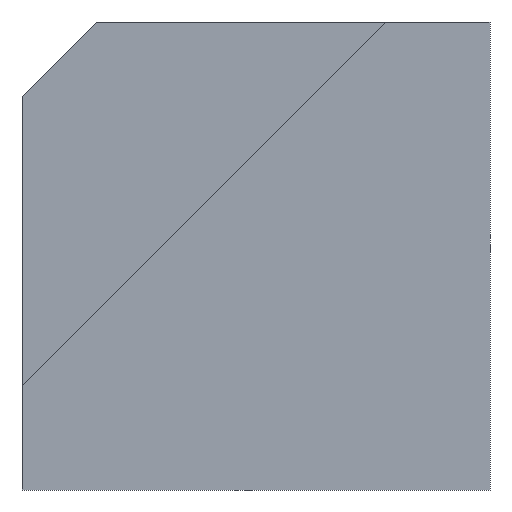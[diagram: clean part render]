
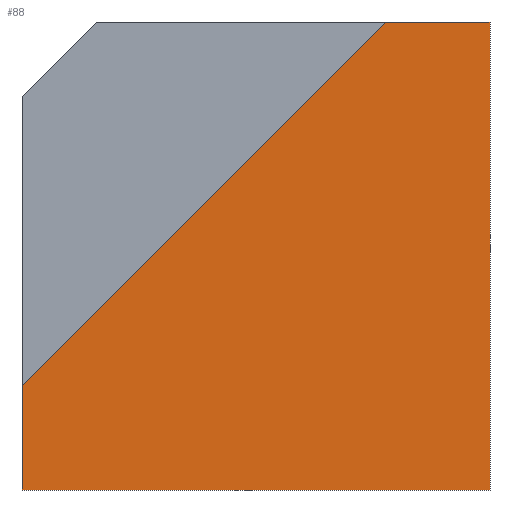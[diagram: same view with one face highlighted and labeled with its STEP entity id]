
A CAD part, front view. The second image highlights one B-rep face of the part: STEP entity #88.
In plain terms, the highlighted planar face has unit normal (0, -1, 0).
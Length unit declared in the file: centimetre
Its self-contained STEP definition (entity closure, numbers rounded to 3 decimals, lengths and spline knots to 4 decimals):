
#1 = CARTESIAN_POINT ( 'NONE',  ( 0., 0., 222.2325 ) ) ;
#3 = EDGE_CURVE ( 'NONE', #204, #293, #137, .T. ) ;
#8 = CARTESIAN_POINT ( 'NONE',  ( 0., 0., 222.2325 ) ) ;
#29 = VECTOR ( 'NONE', #152, 100. ) ;
#31 = DIRECTION ( 'NONE',  ( 0., 0., 1. ) ) ;
#37 = VERTEX_POINT ( 'NONE', #165 ) ;
#38 = LINE ( 'NONE', #261, #186 ) ;
#64 = CARTESIAN_POINT ( 'NONE',  ( 0., 0., 0. ) ) ;
#69 = ORIENTED_EDGE ( 'NONE', *, *, #3, .F. ) ;
#78 = ORIENTED_EDGE ( 'NONE', *, *, #157, .F. ) ;
#82 = CARTESIAN_POINT ( 'NONE',  ( 1000., 0., 1000. ) ) ;
#87 = LINE ( 'NONE', #82, #147 ) ;
#88 = ADVANCED_FACE ( 'NONE', ( #294 ), #255, .F. ) ;
#92 = CARTESIAN_POINT ( 'NONE',  ( 777.7675, 0., 1000. ) ) ;
#98 = ORIENTED_EDGE ( 'NONE', *, *, #295, .T. ) ;
#115 = DIRECTION ( 'NONE',  ( 1., 0., 0. ) ) ;
#125 = ORIENTED_EDGE ( 'NONE', *, *, #277, .F. ) ;
#133 = DIRECTION ( 'NONE',  ( 0.707, 0., 0.707 ) ) ;
#137 = LINE ( 'NONE', #1, #250 ) ;
#139 = AXIS2_PLACEMENT_3D ( 'NONE', #252, #315, #31 ) ;
#147 = VECTOR ( 'NONE', #170, 100. ) ;
#152 = DIRECTION ( 'NONE',  ( 0., 0., -1. ) ) ;
#157 = EDGE_CURVE ( 'NONE', #328, #313, #87, .T. ) ;
#165 = CARTESIAN_POINT ( 'NONE',  ( 0., 0., 0. ) ) ;
#170 = DIRECTION ( 'NONE',  ( 0., 0., -1. ) ) ;
#176 = CARTESIAN_POINT ( 'NONE',  ( 1000., 0., 1000. ) ) ;
#179 = LINE ( 'NONE', #283, #29 ) ;
#186 = VECTOR ( 'NONE', #115, 100. ) ;
#198 = VECTOR ( 'NONE', #327, 100. ) ;
#204 = VERTEX_POINT ( 'NONE', #8 ) ;
#226 = CARTESIAN_POINT ( 'NONE',  ( 1000., 0., 0. ) ) ;
#240 = EDGE_CURVE ( 'NONE', #37, #313, #322, .T. ) ;
#250 = VECTOR ( 'NONE', #133, 100. ) ;
#252 = CARTESIAN_POINT ( 'NONE',  ( 0., 0., 1000. ) ) ;
#255 = PLANE ( 'NONE',  #139 ) ;
#261 = CARTESIAN_POINT ( 'NONE',  ( 0., 0., 1000. ) ) ;
#265 = EDGE_LOOP ( 'NONE', ( #125, #69, #98, #287, #78 ) ) ;
#277 = EDGE_CURVE ( 'NONE', #293, #328, #38, .T. ) ;
#283 = CARTESIAN_POINT ( 'NONE',  ( 0., 0., 1000. ) ) ;
#287 = ORIENTED_EDGE ( 'NONE', *, *, #240, .T. ) ;
#293 = VERTEX_POINT ( 'NONE', #92 ) ;
#294 = FACE_OUTER_BOUND ( 'NONE', #265, .T. ) ;
#295 = EDGE_CURVE ( 'NONE', #204, #37, #179, .T. ) ;
#313 = VERTEX_POINT ( 'NONE', #226 ) ;
#315 = DIRECTION ( 'NONE',  ( 0., 1., 0. ) ) ;
#322 = LINE ( 'NONE', #64, #198 ) ;
#327 = DIRECTION ( 'NONE',  ( 1., 0., 0. ) ) ;
#328 = VERTEX_POINT ( 'NONE', #176 ) ;
